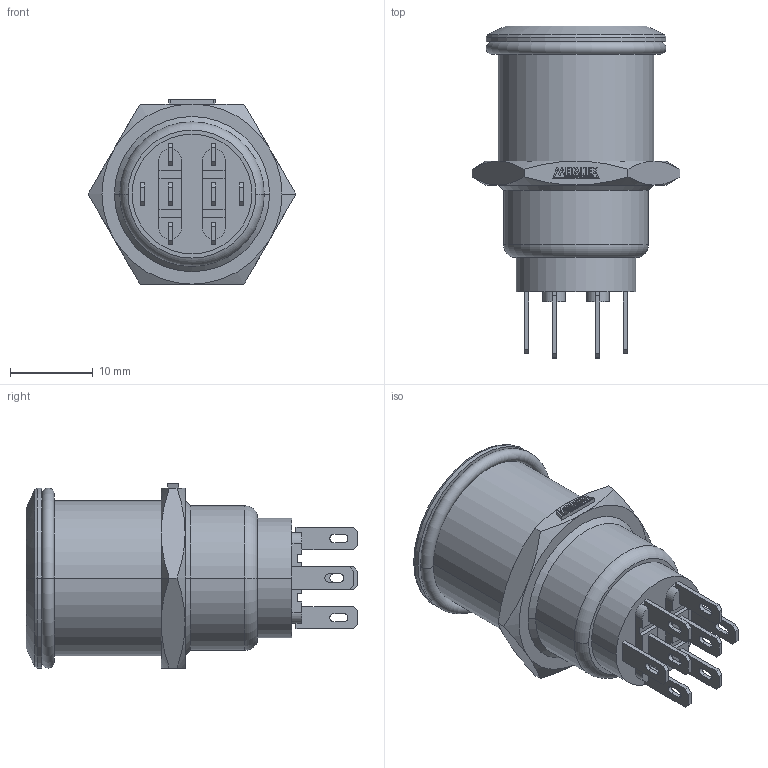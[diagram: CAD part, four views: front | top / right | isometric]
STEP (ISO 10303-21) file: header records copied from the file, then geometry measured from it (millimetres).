
FILE_DESCRIPTION (( 'STEP AP203' ), '1' );
FILE_NAME ('AV19IR-2G.STEP', '2018-01-17T14:29:50', ( '' ), ( '' ), 'SwSTEP 2.0', 'SolidWorks 2012', '' );
FILE_SCHEMA (( 'CONFIG_CONTROL_DESIGN' ));
Length unit declared in the file: millimetre
Products named in the file (3): AV19IR-2G; METALTEX 5,62
Assembly tree (2 placements, depth 2):
  AV19IR-2G
    AV19IR-2G
    METALTEX 5,62
Bounding box: 25.2 x 40.2 x 22.32 mm (x, y, z)
Volume: 8819 mm3; surface area: 3652.3 mm2
Topology: 8 solids, 8 shells, 288 faces, 744 edges, 486 vertices
Faces by surface type: plane 214, cylinder 48, cone 18, torus 6, sphere 2
Entity records: 9107 total; most frequent: CARTESIAN_POINT 1667, ORIENTED_EDGE 1488, DIRECTION 1436, EDGE_CURVE 744, VECTOR 590, LINE 590, VERTEX_POINT 486, AXIS2_PLACEMENT_3D 423
